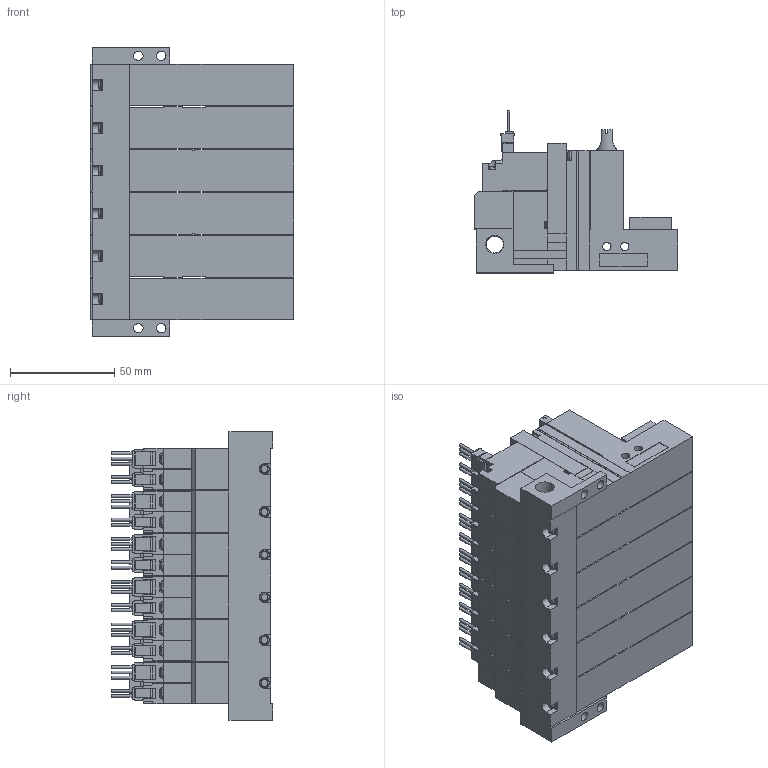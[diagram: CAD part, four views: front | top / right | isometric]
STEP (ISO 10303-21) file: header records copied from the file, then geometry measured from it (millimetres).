
FILE_DESCRIPTION(('STEP AP203'),'1');
FILE_NAME('ZLC5WLR606.stp','2025-02-19T02:08:50',(' '),(' '),'Spatial InterOp 3D',' ',' ');
FILE_SCHEMA(('CONFIG_CONTROL_DESIGN'));
Length unit declared in the file: millimetre
Products named in the file (5): BMC22M※※※※ZLC5WLR606; Solenoid valve W; Pressure sensor ZLC; Unit LC; Base MR60R
Assembly tree (19 placements, depth 2):
  BMC22M※※※※ZLC5WLR606
    Solenoid valve W  x6
    Pressure sensor ZLC  x6
    Unit LC  x6
    Base MR60R
Bounding box: 97.6 x 77.45 x 138.5 mm (x, y, z)
Volume: 540337.6 mm3; surface area: 143816.4 mm2
Topology: 19 solids, 19 shells, 2199 faces, 5969 edges, 3922 vertices
Faces by surface type: plane 1898, cylinder 227, cone 44, torus 30
Full cylindrical faces by diameter (mm): 1.4 x30, 2.5 x6, 3 x24, 3.5 x24, 3.6 x6, 4 x12, 4.134 x6, 4.5 x4, 5.2 x6, 6 x6, 6.6 x6, 8.279 x1
Entity records: 14463 total; most frequent: CARTESIAN_POINT 2811, DIRECTION 2291, ORIENTED_EDGE 2246, EDGE_CURVE 1123, LINE 909, VECTOR 909, VERTEX_POINT 785, AXIS2_PLACEMENT_3D 691
